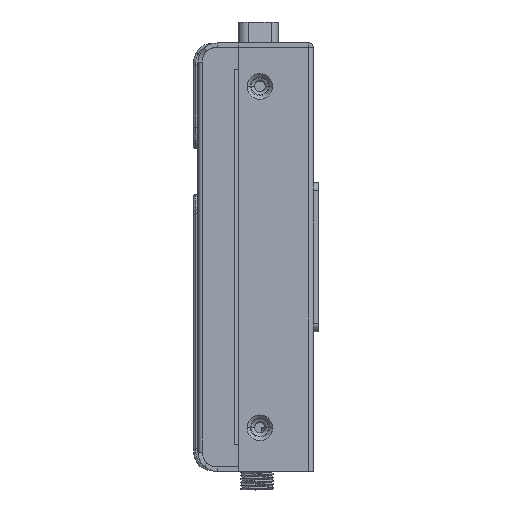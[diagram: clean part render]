
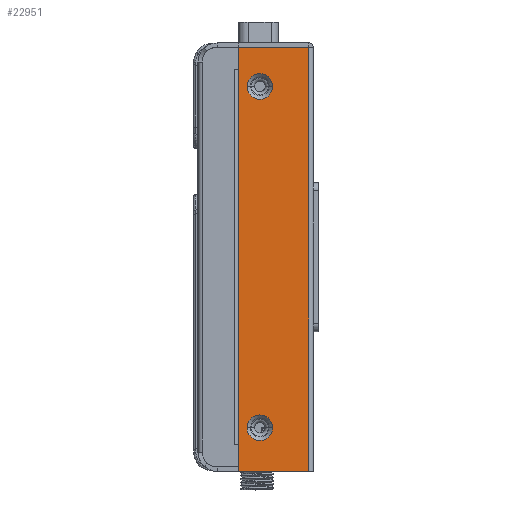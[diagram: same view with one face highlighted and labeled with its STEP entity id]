
A CAD part, left-side view. The second image highlights one B-rep face of the part: STEP entity #22951.
In plain terms, the highlighted planar face has unit normal (-1, 0, 0).
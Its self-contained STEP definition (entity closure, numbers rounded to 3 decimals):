
#219=DIRECTION('',(0.,1.,0.));
#220=VECTOR('',#219,16.5);
#221=CARTESIAN_POINT('',(-33.5,-4.,-50.2));
#222=LINE('',#221,#220);
#6199=CARTESIAN_POINT('',(-33.5,7.5,40.));
#6200=DIRECTION('',(-1.,0.,0.));
#6201=DIRECTION('',(0.,-1.,0.));
#6202=AXIS2_PLACEMENT_3D('',#6199,#6200,#6201);
#6204=CARTESIAN_POINT('',(-33.5,7.5,40.));
#6205=DIRECTION('',(-1.,0.,0.));
#6206=DIRECTION('',(0.,1.,0.));
#6207=AXIS2_PLACEMENT_3D('',#6204,#6205,#6206);
#6209=CARTESIAN_POINT('',(-33.5,7.5,-40.));
#6210=DIRECTION('',(-1.,0.,0.));
#6211=DIRECTION('',(0.,-1.,0.));
#6212=AXIS2_PLACEMENT_3D('',#6209,#6210,#6211);
#6214=CARTESIAN_POINT('',(-33.5,7.5,-40.));
#6215=DIRECTION('',(-1.,0.,0.));
#6216=DIRECTION('',(0.,1.,0.));
#6217=AXIS2_PLACEMENT_3D('',#6214,#6215,#6216);
#6219=DIRECTION('',(0.,0.,-1.));
#6220=VECTOR('',#6219,99.3);
#6221=CARTESIAN_POINT('',(-33.5,-4.,49.1));
#6222=LINE('',#6221,#6220);
#6223=DIRECTION('',(0.,1.,0.));
#6224=VECTOR('',#6223,16.5);
#6225=CARTESIAN_POINT('',(-33.5,-4.,49.1));
#6226=LINE('',#6225,#6224);
#6291=DIRECTION('',(0.,0.,-1.));
#6292=VECTOR('',#6291,99.3);
#6293=CARTESIAN_POINT('',(-33.5,12.5,49.1));
#6294=LINE('',#6293,#6292);
#12005=CARTESIAN_POINT('',(-33.5,-4.,49.1));
#12006=VERTEX_POINT('',#12005);
#12023=CARTESIAN_POINT('',(-33.5,12.5,49.1));
#12024=VERTEX_POINT('',#12023);
#12083=CARTESIAN_POINT('',(-33.5,4.5,
40.));
#12084=VERTEX_POINT('',#12083);
#12117=CARTESIAN_POINT('',(-33.5,4.5,
-40.));
#12118=VERTEX_POINT('',#12117);
#12119=CARTESIAN_POINT('',(-33.5,10.5,
40.));
#12120=VERTEX_POINT('',#12119);
#12161=CARTESIAN_POINT('',(-33.5,10.5,
-40.));
#12162=VERTEX_POINT('',#12161);
#12533=CARTESIAN_POINT('',(-33.5,-4.,-50.2));
#12534=VERTEX_POINT('',#12533);
#12553=CARTESIAN_POINT('',(-33.5,12.5,-50.2));
#12554=VERTEX_POINT('',#12553);
#22926=CARTESIAN_POINT('',(-33.5,-5.,25.82));
#22927=DIRECTION('',(1.,0.,0.));
#22928=DIRECTION('',(0.,0.,-1.));
#22929=AXIS2_PLACEMENT_3D('',#22926,#22927,#22928);
#22930=PLANE('',#22929);
#22931=ORIENTED_EDGE('',*,*,#22918,.T.);
#22932=ORIENTED_EDGE('',*,*,#14132,.T.);
#22934=ORIENTED_EDGE('',*,*,#22933,.F.);
#22936=ORIENTED_EDGE('',*,*,#22935,.F.);
#22937=EDGE_LOOP('',(#22931,#22932,#22934,#22936));
#22938=FACE_OUTER_BOUND('',#22937,.F.);
#22940=ORIENTED_EDGE('',*,*,#22939,.T.);
#22942=ORIENTED_EDGE('',*,*,#22941,.T.);
#22943=EDGE_LOOP('',(#22940,#22942));
#22944=FACE_BOUND('',#22943,.F.);
#22946=ORIENTED_EDGE('',*,*,#22945,.T.);
#22948=ORIENTED_EDGE('',*,*,#22947,.T.);
#22949=EDGE_LOOP('',(#22946,#22948));
#22950=FACE_BOUND('',#22949,.F.);
#22951=ADVANCED_FACE('',(#22938,#22944,#22950),#22930,.F.);
#6203=CIRCLE('',#6202,3.);
#6208=CIRCLE('',#6207,3.);
#6213=CIRCLE('',#6212,3.);
#6218=CIRCLE('',#6217,3.);
#14132=EDGE_CURVE('',#12534,#12554,#222,.T.);
#22918=EDGE_CURVE('',#12006,#12534,#6222,.T.);
#22933=EDGE_CURVE('',#12024,#12554,#6294,.T.);
#22935=EDGE_CURVE('',#12006,#12024,#6226,.T.);
#22939=EDGE_CURVE('',#12118,#12162,#6213,.T.);
#22941=EDGE_CURVE('',#12162,#12118,#6218,.T.);
#22945=EDGE_CURVE('',#12084,#12120,#6203,.T.);
#22947=EDGE_CURVE('',#12120,#12084,#6208,.T.);
